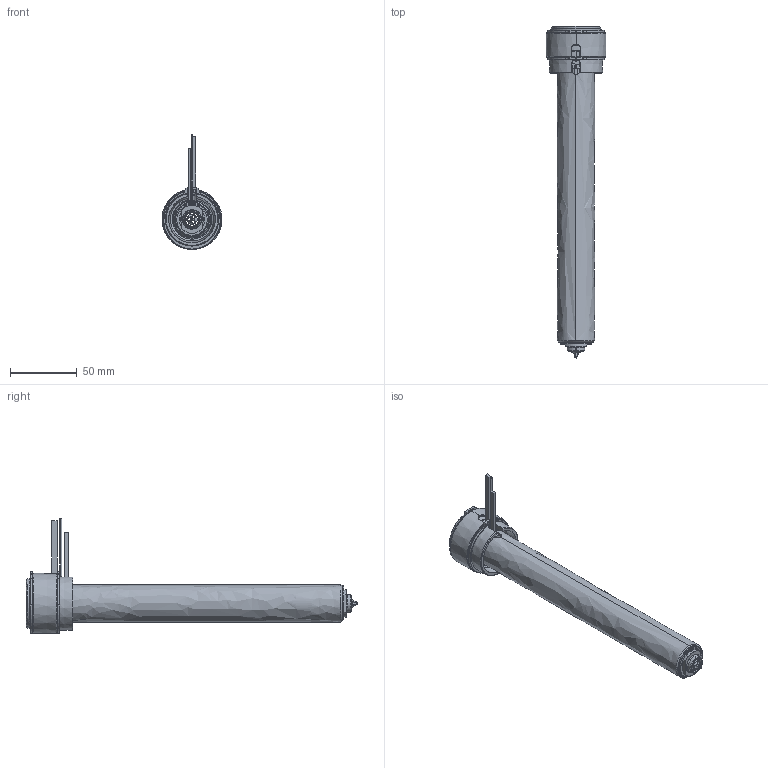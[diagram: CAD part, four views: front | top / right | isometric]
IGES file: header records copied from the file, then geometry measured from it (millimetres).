
Start section: SolidWorks IGES file using analytic representation for surfaces
Global section: file name: C:\Documents and Settings\ws-20\Desktop\TEM\UGEP4505-M-A-0 [Øf-1.17 ØC-10].IGS; native system: SolidWorks 2012; preprocessor: SolidWorks 2012; author: ws-20; date: 120424.091030; units: millimetre
Bounding box: 45 x 249.05 x 86.15 mm (x, y, z)
Surface area: 82632.2 mm2 (no closed solid volume)
Topology: 0 solids, 0 shells, 182 faces, 3493 edges, 3493 vertices
Faces by surface type: revolution 112, bspline 70
